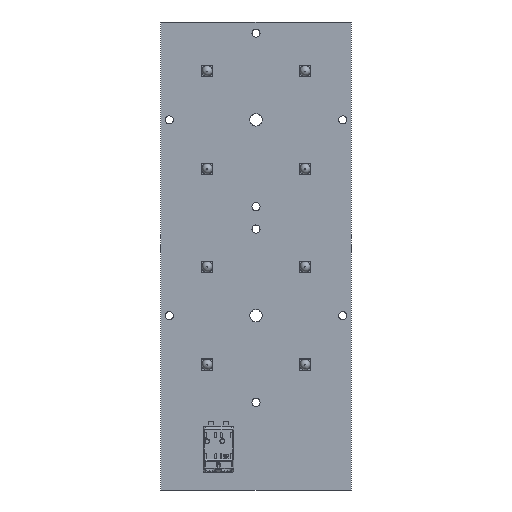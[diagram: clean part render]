
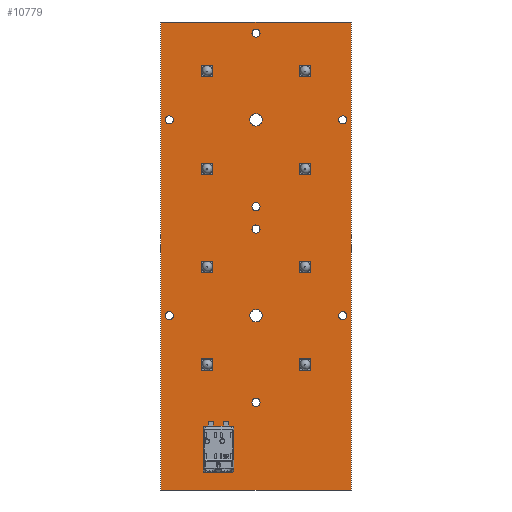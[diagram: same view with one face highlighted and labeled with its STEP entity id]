
A CAD part, front view. The second image highlights one B-rep face of the part: STEP entity #10779.
In plain terms, the highlighted planar face has unit normal (0, -1, 0).
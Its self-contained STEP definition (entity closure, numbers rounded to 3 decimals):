
#606=CIRCLE('',#11248,1.6);
#608=CIRCLE('',#11251,1.05);
#610=CIRCLE('',#11254,1.05);
#612=CIRCLE('',#11257,1.05);
#614=CIRCLE('',#11260,1.05);
#616=CIRCLE('',#11263,1.6);
#618=CIRCLE('',#11266,1.05);
#620=CIRCLE('',#11269,1.05);
#622=CIRCLE('',#11272,1.05);
#624=CIRCLE('',#11275,1.05);
#976=ORIENTED_EDGE('',*,*,#3273,.T.);
#977=ORIENTED_EDGE('',*,*,#3271,.T.);
#978=ORIENTED_EDGE('',*,*,#3269,.T.);
#979=ORIENTED_EDGE('',*,*,#3267,.T.);
#980=ORIENTED_EDGE('',*,*,#3265,.T.);
#981=ORIENTED_EDGE('',*,*,#3263,.T.);
#982=ORIENTED_EDGE('',*,*,#3261,.T.);
#983=ORIENTED_EDGE('',*,*,#3259,.T.);
#984=ORIENTED_EDGE('',*,*,#3257,.T.);
#985=ORIENTED_EDGE('',*,*,#3255,.T.);
#986=ORIENTED_EDGE('',*,*,#3244,.T.);
#987=ORIENTED_EDGE('',*,*,#3248,.T.);
#988=ORIENTED_EDGE('',*,*,#3251,.T.);
#989=ORIENTED_EDGE('',*,*,#3274,.T.);
#3244=EDGE_CURVE('',#4403,#4404,#5135,.T.);
#3248=EDGE_CURVE('',#4404,#4407,#5139,.T.);
#3251=EDGE_CURVE('',#4407,#4409,#5142,.T.);
#3255=EDGE_CURVE('',#4412,#4412,#606,.T.);
#3257=EDGE_CURVE('',#4414,#4414,#608,.T.);
#3259=EDGE_CURVE('',#4416,#4416,#610,.T.);
#3261=EDGE_CURVE('',#4418,#4418,#612,.T.);
#3263=EDGE_CURVE('',#4420,#4420,#614,.T.);
#3265=EDGE_CURVE('',#4422,#4422,#616,.T.);
#3267=EDGE_CURVE('',#4424,#4424,#618,.T.);
#3269=EDGE_CURVE('',#4426,#4426,#620,.T.);
#3271=EDGE_CURVE('',#4428,#4428,#622,.T.);
#3273=EDGE_CURVE('',#4430,#4430,#624,.T.);
#3274=EDGE_CURVE('',#4409,#4403,#5145,.T.);
#4403=VERTEX_POINT('',#13747);
#4404=VERTEX_POINT('',#13748);
#4407=VERTEX_POINT('',#13756);
#4409=VERTEX_POINT('',#13762);
#4412=VERTEX_POINT('',#13770);
#4414=VERTEX_POINT('',#13775);
#4416=VERTEX_POINT('',#13780);
#4418=VERTEX_POINT('',#13785);
#4420=VERTEX_POINT('',#13790);
#4422=VERTEX_POINT('',#13795);
#4424=VERTEX_POINT('',#13800);
#4426=VERTEX_POINT('',#13805);
#4428=VERTEX_POINT('',#13810);
#4430=VERTEX_POINT('',#13815);
#5135=LINE('',#13746,#5711);
#5139=LINE('',#13755,#5715);
#5142=LINE('',#13761,#5718);
#5145=LINE('',#13817,#5721);
#5711=VECTOR('',#11888,1000.);
#5715=VECTOR('',#11894,1000.);
#5718=VECTOR('',#11899,1000.);
#5721=VECTOR('',#11964,1000.);
#6322=EDGE_LOOP('',(#976));
#6323=EDGE_LOOP('',(#977));
#6324=EDGE_LOOP('',(#978));
#6325=EDGE_LOOP('',(#979));
#6326=EDGE_LOOP('',(#980));
#6327=EDGE_LOOP('',(#981));
#6328=EDGE_LOOP('',(#982));
#6329=EDGE_LOOP('',(#983));
#6330=EDGE_LOOP('',(#984));
#6331=EDGE_LOOP('',(#985));
#6332=EDGE_LOOP('',(#986,#987,#988,#989));
#6836=FACE_BOUND('',#6322,.T.);
#6837=FACE_BOUND('',#6323,.T.);
#6838=FACE_BOUND('',#6324,.T.);
#6839=FACE_BOUND('',#6325,.T.);
#6840=FACE_BOUND('',#6326,.T.);
#6841=FACE_BOUND('',#6327,.T.);
#6842=FACE_BOUND('',#6328,.T.);
#6843=FACE_BOUND('',#6329,.T.);
#6844=FACE_BOUND('',#6330,.T.);
#6845=FACE_BOUND('',#6331,.T.);
#6846=FACE_BOUND('',#6332,.T.);
#7321=PLANE('',#11278);
#10779=ADVANCED_FACE('',(#6836,#6837,#6838,#6839,#6840,#6841,#6842,#6843,
#6844,#6845,#6846),#7321,.T.);
#11248=AXIS2_PLACEMENT_3D('',#13769,#11906,#11907);
#11251=AXIS2_PLACEMENT_3D('',#13774,#11912,#11913);
#11254=AXIS2_PLACEMENT_3D('',#13779,#11918,#11919);
#11257=AXIS2_PLACEMENT_3D('',#13784,#11924,#11925);
#11260=AXIS2_PLACEMENT_3D('',#13789,#11930,#11931);
#11263=AXIS2_PLACEMENT_3D('',#13794,#11936,#11937);
#11266=AXIS2_PLACEMENT_3D('',#13799,#11942,#11943);
#11269=AXIS2_PLACEMENT_3D('',#13804,#11948,#11949);
#11272=AXIS2_PLACEMENT_3D('',#13809,#11954,#11955);
#11275=AXIS2_PLACEMENT_3D('',#13814,#11960,#11961);
#11278=AXIS2_PLACEMENT_3D('',#13820,#11968,#11969);
#11888=DIRECTION('',(-1.,0.,0.));
#11894=DIRECTION('',(0.,0.,-1.));
#11899=DIRECTION('',(1.,0.,0.));
#11906=DIRECTION('',(0.,1.,0.));
#11907=DIRECTION('',(1.,0.,0.));
#11912=DIRECTION('',(0.,1.,0.));
#11913=DIRECTION('',(1.,0.,0.));
#11918=DIRECTION('',(0.,1.,0.));
#11919=DIRECTION('',(1.,0.,0.));
#11924=DIRECTION('',(0.,1.,0.));
#11925=DIRECTION('',(1.,0.,0.));
#11930=DIRECTION('',(0.,1.,0.));
#11931=DIRECTION('',(1.,0.,0.));
#11936=DIRECTION('',(0.,1.,0.));
#11937=DIRECTION('',(1.,0.,0.));
#11942=DIRECTION('',(0.,1.,0.));
#11943=DIRECTION('',(1.,0.,0.));
#11948=DIRECTION('',(0.,1.,0.));
#11949=DIRECTION('',(1.,0.,0.));
#11954=DIRECTION('',(0.,1.,0.));
#11955=DIRECTION('',(1.,0.,0.));
#11960=DIRECTION('',(0.,1.,0.));
#11961=DIRECTION('',(1.,0.,0.));
#11964=DIRECTION('',(0.,0.,1.));
#11968=DIRECTION('',(0.,-1.,0.));
#11969=DIRECTION('',(0.,0.,-1.));
#13746=CARTESIAN_POINT('',(-24.75,0.,60.7));
#13747=CARTESIAN_POINT('',(24.75,0.,60.7));
#13748=CARTESIAN_POINT('',(-24.75,0.,60.7));
#13755=CARTESIAN_POINT('',(-24.75,0.,60.7));
#13756=CARTESIAN_POINT('',(-24.75,0.,-60.7));
#13761=CARTESIAN_POINT('',(-24.75,0.,-60.7));
#13762=CARTESIAN_POINT('',(24.75,0.,-60.7));
#13769=CARTESIAN_POINT('',(0.,0.,35.3));
#13770=CARTESIAN_POINT('',(1.6,0.,35.3));
#13774=CARTESIAN_POINT('',(22.5,0.,35.3));
#13775=CARTESIAN_POINT('',(23.55,0.,35.3));
#13779=CARTESIAN_POINT('',(-22.5,0.,35.3));
#13780=CARTESIAN_POINT('',(-21.45,0.,35.3));
#13784=CARTESIAN_POINT('',(0.,0.,12.8));
#13785=CARTESIAN_POINT('',(1.05,0.,12.8));
#13789=CARTESIAN_POINT('',(0.,0.,57.8));
#13790=CARTESIAN_POINT('',(1.05,0.,57.8));
#13794=CARTESIAN_POINT('',(0.,0.,-15.5));
#13795=CARTESIAN_POINT('',(1.6,0.,-15.5));
#13799=CARTESIAN_POINT('',(22.5,0.,-15.5));
#13800=CARTESIAN_POINT('',(23.55,0.,-15.5));
#13804=CARTESIAN_POINT('',(-22.5,0.,-15.5));
#13805=CARTESIAN_POINT('',(-21.45,0.,-15.5));
#13809=CARTESIAN_POINT('',(0.,0.,-38.));
#13810=CARTESIAN_POINT('',(1.05,0.,-38.));
#13814=CARTESIAN_POINT('',(0.,0.,7.));
#13815=CARTESIAN_POINT('',(1.05,0.,7.));
#13817=CARTESIAN_POINT('',(24.75,0.,-60.7));
#13820=CARTESIAN_POINT('',(0.,0.,0.));
